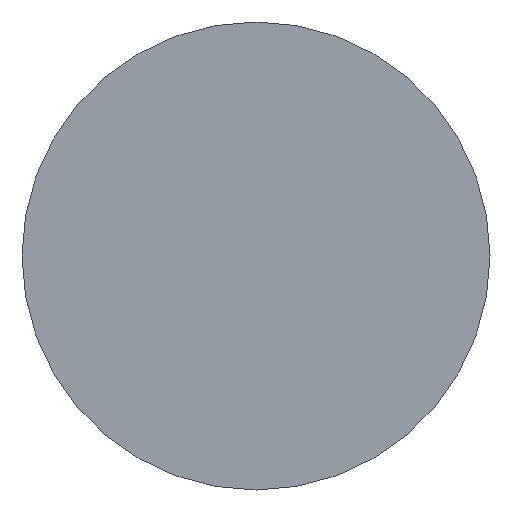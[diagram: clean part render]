
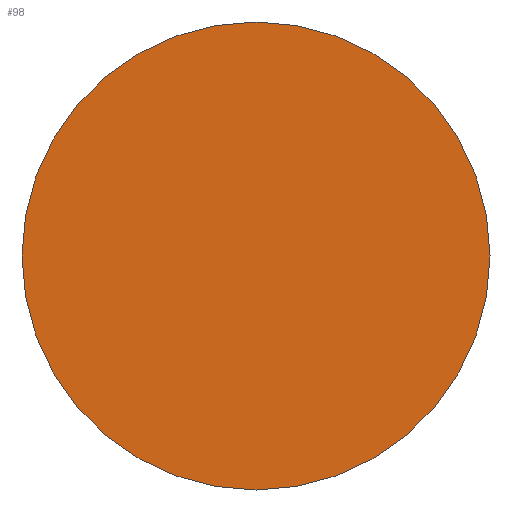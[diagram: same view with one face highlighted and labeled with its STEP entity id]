
A CAD part, left-side view. The second image highlights one B-rep face of the part: STEP entity #98.
In plain terms, the highlighted planar face has unit normal (-1, 0, 0).
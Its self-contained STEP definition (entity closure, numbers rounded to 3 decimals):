
#17=PLANE('',#113);
#30=FACE_OUTER_BOUND('',#42,.T.);
#42=EDGE_LOOP('',(#77));
#52=CIRCLE('',#114,2.5);
#59=VERTEX_POINT('',#167);
#66=EDGE_CURVE('',#59,#59,#52,.T.);
#77=ORIENTED_EDGE('',*,*,#66,.F.);
#98=ADVANCED_FACE('',(#30),#17,.T.);
#113=AXIS2_PLACEMENT_3D('',#166,#140,#141);
#114=AXIS2_PLACEMENT_3D('',#168,#142,#143);
#140=DIRECTION('center_axis',(-1.,0.,0.));
#141=DIRECTION('ref_axis',(0.,0.,1.));
#142=DIRECTION('center_axis',(1.,0.,0.));
#143=DIRECTION('ref_axis',(0.,1.,0.));
#166=CARTESIAN_POINT('Origin',(0.,1.25,0.));
#167=CARTESIAN_POINT('',(0.,2.5,0.));
#168=CARTESIAN_POINT('Origin',(0.,0.,0.));
